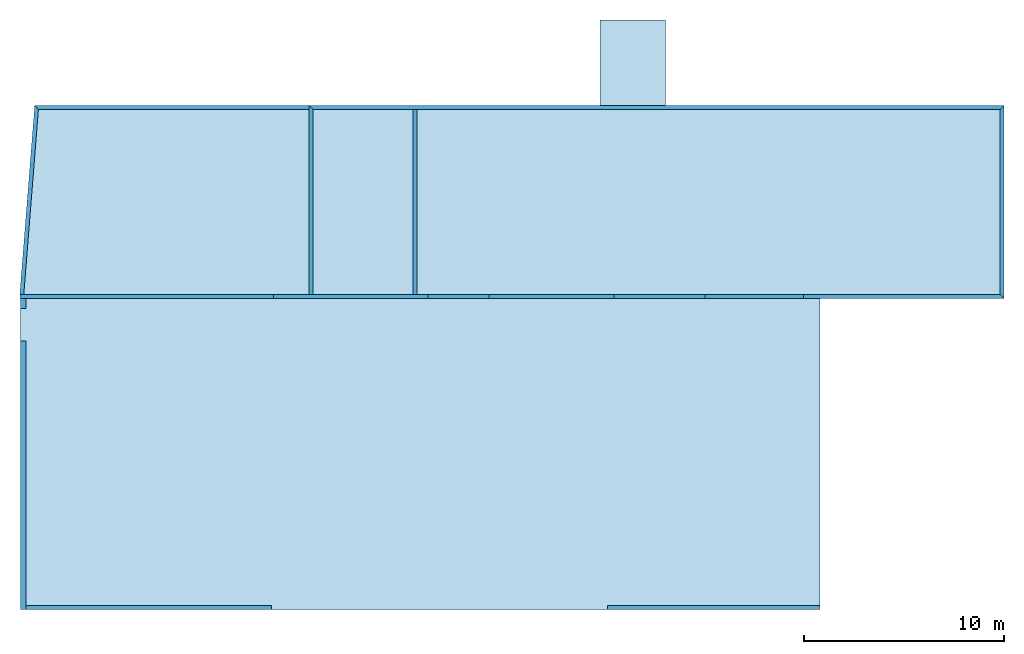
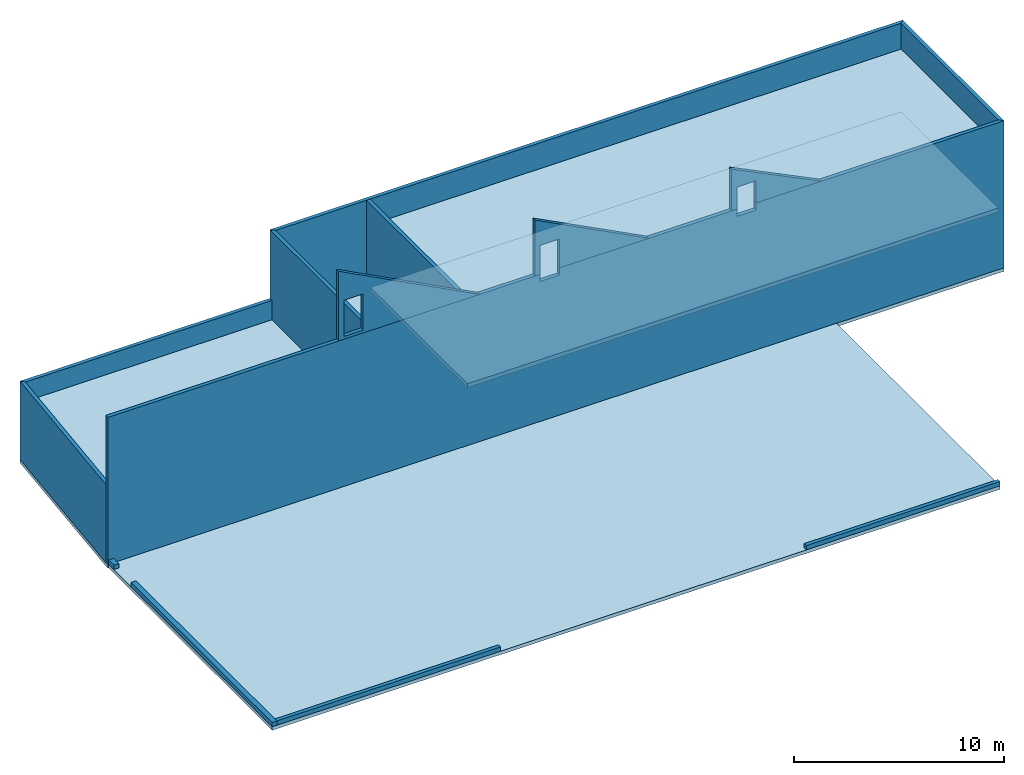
# One storey: 11 beams, 9 slabs, 20 elements without a shape of their own.
"""IFC2X3 building model written with IfcOpenShell, lengths in millimetres."""

from ifc_helpers import new_model, si_unit, frame, origin_with_axes, origin_2d_with_axis, place, context, subcontext, project, spatial, polyline, rectangle, outline, extrude, boolean, clip, halfspace, material, type_object, element, aggregate, save


model = new_model("IFC2X3")

# Units and contexts
model_context = context("Model", 3, precision=1e-05, world=origin_with_axes())
body_context = subcontext(model_context, "Body", "Model", "MODEL_VIEW")
ifc_project = project(units=[si_unit("LENGTHUNIT", "METRE", prefix="MILLI"), si_unit("AREAUNIT", "SQUARE_METRE"), si_unit("VOLUMEUNIT", "CUBIC_METRE"), si_unit("MASSUNIT", "GRAM", prefix="KILO"), si_unit("TIMEUNIT", "SECOND"), si_unit("PLANEANGLEUNIT", "RADIAN"), si_unit("SOLIDANGLEUNIT", "STERADIAN"), si_unit("THERMODYNAMICTEMPERATUREUNIT", "DEGREE_CELSIUS"), si_unit("LUMINOUSINTENSITYUNIT", "LUMEN")], contexts=[model_context])

# Site, building, storey
site_placement = place(None, origin_with_axes())
site = spatial("IfcSite", under=ifc_project, at=site_placement, Name="Undefined", CompositionType="ELEMENT")
building_placement = place(site_placement, origin_with_axes())
building = spatial("IfcBuilding", under=site, at=building_placement, Name="Undefined", CompositionType="ELEMENT")
storey_placement = place(building_placement, origin_with_axes())
storey = spatial("IfcBuildingStorey", under=building, at=storey_placement, Name="Undefined", CompositionType="ELEMENT", Elevation=0.0)

# Assembly, beam
assembly_1_placement = place(storey_placement, origin_with_axes())
assembly_1 = element("IfcElementAssembly", 1, at=assembly_1_placement, inside=storey, Name="POUTRE", AssemblyPlace="NOTDEFINED", PredefinedType="REINFORCEMENT_UNIT")
ifc_material = material(Name="CONCRETE/C25/30")
beam_type_1 = type_object("IfcBeamType", Name="250*270", PredefinedType="NOTDEFINED")
beam_1_placement = place(assembly_1_placement, frame((-44.9999991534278, 13245.0066102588, 125.000000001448), z_axis=(0.0, 0.0, 1.0), x_axis=(0.0, -1.0, 0.0)))
beam_1 = element("IfcBeam", 2, at=beam_1_placement, type_object=beam_type_1, material=ifc_material, Name="POUTRE", ObjectType="250*270", context=body_context, shape_type="SweptSolid", body=[
    extrude(rectangle(XDim=270.0, YDim=250.0, at=origin_2d_with_axis()), frame((13425.0065914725, 0.0, 0.0), z_axis=(-1.0, 0.0, 0.0), x_axis=(0.0, -1.0, 0.0)), (0.0, 0.0, 1.0), 13425.0),
])
aggregate(assembly_1, [beam_1])

assembly_2_placement = place(storey_placement, origin_with_axes())
assembly_2 = element("IfcElementAssembly", 3, at=assembly_2_placement, inside=storey, Name="POUTRE", AssemblyPlace="NOTDEFINED", PredefinedType="REINFORCEMENT_UNIT")
beam_2_placement = place(assembly_2_placement, frame((-44.9999989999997, 15390.0000797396, 124.999999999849), z_axis=(0.0, 0.0, 1.0), x_axis=(0.0, -1.0, 0.0)))
beam_2 = element("IfcBeam", 4, at=beam_2_placement, type_object=beam_type_1, material=ifc_material, Name="POUTRE", ObjectType="250*270", context=body_context, shape_type="SweptSolid", body=[
    extrude(rectangle(XDim=270.0, YDim=250.0, at=origin_2d_with_axis()), frame((500.000077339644, 0.0, 0.0), z_axis=(-1.0, 0.0, 0.0), x_axis=(0.0, -1.0, 0.0)), (0.0, 0.0, 1.0), 500.0),
])
aggregate(assembly_2, [beam_2])

assembly_3_placement = place(storey_placement, origin_with_axes())
assembly_3 = element("IfcElementAssembly", 5, at=assembly_3_placement, inside=storey, Name="POUTRE", AssemblyPlace="NOTDEFINED", PredefinedType="REINFORCEMENT_UNIT")
beam_type_2 = type_object("IfcBeamType", Name="250*200", PredefinedType="NOTDEFINED")
beam_3_placement = place(assembly_3_placement, frame((29179.9971504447, -79.9999948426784, 124.999999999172), z_axis=(0.0, 0.0, 1.0), x_axis=(1.0, 0.0, 0.0)))
beam_3 = element("IfcBeam", 6, at=beam_3_placement, type_object=beam_type_2, material=ifc_material, Name="POUTRE", ObjectType="250*200", context=body_context, shape_type="SweptSolid", body=[
    extrude(rectangle(XDim=200.0, YDim=250.0, at=origin_2d_with_axis()), frame((10645.0, 0.0, 0.0), z_axis=(-1.0, 0.0, 0.0), x_axis=(0.0, -1.0, 0.0)), (0.0, 0.0, 1.0), 10645.0),
])
aggregate(assembly_3, [beam_3])

assembly_4_placement = place(storey_placement, origin_with_axes())
assembly_4 = element("IfcElementAssembly", 7, at=assembly_4_placement, inside=storey, Name="POUTRE", AssemblyPlace="NOTDEFINED", PredefinedType="REINFORCEMENT_UNIT")
beam_4_placement = place(assembly_4_placement, frame((90.0000010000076, -79.9999811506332, 125.000000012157), z_axis=(0.0, 0.0, 1.0), x_axis=(1.0, 0.0, 0.0)))
beam_4 = element("IfcBeam", 8, at=beam_4_placement, type_object=beam_type_2, material=ifc_material, Name="POUTRE", ObjectType="250*200", context=body_context, shape_type="SweptSolid", body=[
    extrude(rectangle(XDim=200.0, YDim=250.0, at=origin_2d_with_axis()), frame((12289.9971494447, 0.0, 0.0), z_axis=(-1.0, 0.0, 0.0), x_axis=(0.0, -1.0, 0.0)), (0.0, 0.0, 1.0), 12290.0),
])
aggregate(assembly_4, [beam_4])

assembly_5_placement = place(storey_placement, origin_with_axes())
assembly_5 = element("IfcElementAssembly", 9, at=assembly_5_placement, inside=storey, Name="POUTRE", AssemblyPlace="NOTDEFINED", PredefinedType="REINFORCEMENT_UNIT")
beam_type_3 = type_object("IfcBeamType", Name="8550*200", PredefinedType="NOTDEFINED")
beam_5_placement = place(assembly_5_placement, frame((19554.9999999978, 15589.9999107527, 4275.0), z_axis=(0.0, 0.0, 1.0), x_axis=(0.0, 1.0, 0.0)))
beam_5 = element("IfcBeam", 10, at=beam_5_placement, type_object=beam_type_3, material=ifc_material, Name="POUTRE", ObjectType="8550*200", context=body_context, shape_type="SweptSolid", body=[
    extrude(rectangle(XDim=200.0, YDim=8550.0, at=origin_2d_with_axis()), frame((9250.00007595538, 0.0, 0.0), z_axis=(-1.0, 0.0, 0.0), x_axis=(0.0, -1.0, 0.0)), (0.0, 0.0, 1.0), 9250.0),
])
aggregate(assembly_5, [beam_5])

assembly_6_placement = place(storey_placement, origin_with_axes())
assembly_6 = element("IfcElementAssembly", 11, at=assembly_6_placement, inside=storey, Name="POUTRE", AssemblyPlace="NOTDEFINED", PredefinedType="REINFORCEMENT_UNIT")
beam_6_placement = place(assembly_6_placement, frame((14354.9999999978, 15589.9999107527, 4275.0), z_axis=(0.0, 0.0, 1.0), x_axis=(0.0, 1.0, 0.0)))
beam_6 = element("IfcBeam", 12, at=beam_6_placement, type_object=beam_type_3, material=ifc_material, Name="POUTRE", ObjectType="8550*200", context=body_context, shape_type="Clipping", body=[
    clip(extrude(rectangle(XDim=200.0, YDim=8550.0, at=origin_2d_with_axis()), frame((9451.00008924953, 0.0, 0.0), z_axis=(-1.0, 0.0, 0.0), x_axis=(0.0, -1.0, 0.0)), (0.0, 0.0, 1.0), 9451.0), halfspace(frame((9450.00008924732, 99.9999999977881, -4275.0), z_axis=(-0.707106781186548, 0.707106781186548, 0.0), x_axis=(0.0, 0.0, 1.0)), True)),
])
aggregate(assembly_6, [beam_6])

assembly_7_placement = place(storey_placement, origin_with_axes())
assembly_7 = element("IfcElementAssembly", 13, at=assembly_7_placement, inside=storey, Name="POUTRE", AssemblyPlace="NOTDEFINED", PredefinedType="REINFORCEMENT_UNIT")
beam_7_placement = place(assembly_7_placement, frame((49032.9999999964, 24939.9999999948, 4275.0), z_axis=(0.0, 0.0, 1.0), x_axis=(-1.0, 0.0, 0.0)))
solid = boolean("DIFFERENCE", boolean("DIFFERENCE", boolean("DIFFERENCE", boolean("DIFFERENCE", boolean("DIFFERENCE", boolean("DIFFERENCE", boolean("DIFFERENCE", boolean("DIFFERENCE", extrude(rectangle(XDim=200.0, YDim=8550.0, at=origin_2d_with_axis()), frame((34879.9999999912, 0.0, 0.0), z_axis=(-1.0, 0.0, 0.0), x_axis=(0.0, -1.0, 0.0)), (0.0, 0.0, 1.0), 34982.0), extrude(outline(polyline([(0.0, 0.0), (1700.0, 0.0), (1700.0, 1000.00000003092), (0.0, 1000.00000003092), (0.0, 0.0)])), frame((24712.9999993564, 103.000023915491, 1935.0), z_axis=(0.0, -1.0, 0.0), x_axis=(0.0, 0.0, -1.0)), (0.0, 0.0, 1.0), 206.0)), extrude(outline(polyline([(0.0, 0.0), (1700.0, 0.0), (1700.0, 1450.00000003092), (0.0, 1450.00000003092), (0.0, 0.0)])), frame((20657.9999993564, 103.000010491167, 1935.0), z_axis=(0.0, -1.0, 0.0), x_axis=(0.0, 0.0, -1.0)), (0.0, 0.0, 1.0), 206.0)), extrude(outline(polyline([(0.0, 0.0), (1700.0, 0.0), (1700.0, 5000.00000003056), (0.0, 5000.00000003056), (0.0, 0.0)])), frame((14593.9999993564, 102.999990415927, 1935.0), z_axis=(0.0, -1.0, 0.0), x_axis=(0.0, 0.0, -1.0)), (0.0, 0.0, 1.0), 206.0)), extrude(outline(polyline([(0.0, 0.0), (1700.0, 0.0), (1700.0, 5000.00000003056), (0.0, 5000.00000003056), (0.0, 0.0)])), frame((13029.9999999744, -103.00001476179, 1935.0), z_axis=(0.0, 1.0, 0.0), x_axis=(0.0, 0.0, -1.0)), (0.0, 0.0, 1.0), 206.0)), extrude(outline(polyline([(0.0, 0.0), (1600.00000003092, 0.0), (1600.00000003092, 2815.0), (3.09228198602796e-08, 2815.0), (0.0, 0.0)])), frame((24007.9999999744, -102.999978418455, -1460.0), z_axis=(0.0, 1.0, 0.0), x_axis=(1.0, 0.0, 0.0)), (0.0, 0.0, 1.0), 206.0)), extrude(outline(polyline([(0.0, 0.0), (1170.00000003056, 0.0), (1170.00000003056, 2815.0), (3.09228198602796e-08, 2815.0), (0.0, 0.0)])), frame((11859.9999999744, -103.000018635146, -1460.0), z_axis=(0.0, 1.0, 0.0), x_axis=(1.0, 0.0, 0.0)), (0.0, 0.0, 1.0), 206.0)), extrude(outline(polyline([(0.0, 0.0), (1990.0, 0.0), (1990.0, 2800.0), (0.0, 2800.0), (0.0, 0.0)])), frame((14330.0000000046, -103.000113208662, -1475.0), z_axis=(0.0, 1.0, 0.0), x_axis=(1.0, 0.0, 0.0)), (0.0, 0.0, 1.0), 206.0)), extrude(outline(polyline([(0.0, 0.0), (1150.00000003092, 0.0), (1150.00000003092, 2180.0), (3.09228198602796e-08, 2180.0), (0.0, 0.0)])), frame((22622.9999999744, -102.999983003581, -2095.0), z_axis=(0.0, 1.0, 0.0), x_axis=(1.0, 0.0, 0.0)), (0.0, 0.0, 1.0), 206.0))
beam_7 = element("IfcBeam", 14, at=beam_7_placement, type_object=beam_type_3, material=ifc_material, Name="POUTRE", ObjectType="8550*200", context=body_context, shape_type="CSG", body=[
    boolean("DIFFERENCE", boolean("DIFFERENCE", solid, halfspace(frame((34777.9999999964, -100.00000000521, -4275.0), z_axis=(0.707106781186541, 0.707106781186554, 0.0), x_axis=(0.0, 0.0, 1.0)), False)), halfspace(frame((0.000287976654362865, -100.00000000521, -4275.0), z_axis=(0.707106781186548, -0.707106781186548, 0.0), x_axis=(0.0, 0.0, 1.0)), True)),
])
aggregate(assembly_7, [beam_7])

assembly_8_placement = place(storey_placement, origin_with_axes())
assembly_8 = element("IfcElementAssembly", 15, at=assembly_8_placement, inside=storey, Name="POUTRE", AssemblyPlace="NOTDEFINED", PredefinedType="REINFORCEMENT_UNIT")
beam_8_placement = place(assembly_8_placement, frame((48932.9999999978, 15389.9999999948, 4275.0), z_axis=(0.0, 0.0, 1.0), x_axis=(0.0, 1.0, 0.0)))
beam_8 = element("IfcBeam", 16, at=beam_8_placement, type_object=beam_type_3, material=ifc_material, Name="POUTRE", ObjectType="8550*200", context=body_context, shape_type="Clipping", body=[
    clip(clip(extrude(rectangle(XDim=200.0, YDim=8550.0, at=origin_2d_with_axis()), frame((9752.0002879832, 0.0, 0.0), z_axis=(-1.0, 0.0, 0.0), x_axis=(0.0, -1.0, 0.0)), (0.0, 0.0, 1.0), 9854.0), halfspace(frame((9650.0001439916, -99.9998560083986, -4275.0), z_axis=(0.707106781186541, 0.707106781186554, 0.0), x_axis=(0.0, 0.0, 1.0)), False)), halfspace(frame((200.000153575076, 100.000729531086, -4275.0), z_axis=(-0.707106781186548, 0.707106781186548, 0.0), x_axis=(0.0, 0.0, 1.0)), False)),
])
aggregate(assembly_8, [beam_8])

assembly_9_placement = place(storey_placement, origin_with_axes())
assembly_9 = element("IfcElementAssembly", 17, at=assembly_9_placement, inside=storey, Name="POUTRE", AssemblyPlace="NOTDEFINED", PredefinedType="REINFORCEMENT_UNIT")
beam_9_placement = place(assembly_9_placement, frame((49033.0, 15490.0, 4275.0), z_axis=(0.0, 0.0, 1.0), x_axis=(-1.0, 0.0, 0.0)))
beam_9 = element("IfcBeam", 18, at=beam_9_placement, type_object=beam_type_3, material=ifc_material, Name="POUTRE", ObjectType="8550*200", context=body_context, shape_type="CSG", body=[
    boolean("DIFFERENCE", boolean("DIFFERENCE", boolean("DIFFERENCE", extrude(rectangle(XDim=200.0, YDim=8550.0, at=origin_2d_with_axis()), frame((49248.0, 0.0, 0.0), z_axis=(-1.0, 0.0, 0.0), x_axis=(0.0, -1.0, 0.0)), (0.0, 0.0, 1.0), 49249.0), extrude(outline(polyline([(0.0, 0.0), (420.000061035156, 0.0), (420.000061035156, 1065.0), (0.0, 1065.0), (0.0, 0.0)])), frame((25496.5000000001, -102.5, 4275.00006282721), z_axis=(0.0, 1.0, 0.0), x_axis=(0.0, 0.0, -1.0)), (0.0, 0.0, 1.0), 205.0)), extrude(outline(polyline([(0.0, 0.0), (419.999969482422, 0.0), (419.999969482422, 1065.0), (0.0, 1065.0), (0.0, 0.0)])), frame((14686.5, -102.5, 4274.99997731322), z_axis=(0.0, 1.0, 0.0), x_axis=(0.0, 0.0, -1.0)), (0.0, 0.0, 1.0), 205.0)), halfspace(frame((200.000729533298, -100.000153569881, -4275.0), z_axis=(0.707106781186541, 0.707106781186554, 0.0), x_axis=(0.0, 0.0, 1.0)), True)),
])
aggregate(assembly_9, [beam_9])

assembly_10_placement = place(storey_placement, origin_with_axes())
assembly_10 = element("IfcElementAssembly", 19, at=assembly_10_placement, inside=storey, Name="POUTRE", AssemblyPlace="NOTDEFINED", PredefinedType="REINFORCEMENT_UNIT")
beam_type_4 = type_object("IfcBeamType", Name="4550*200", PredefinedType="NOTDEFINED")
beam_10_placement = place(assembly_10_placement, frame((14255.0, 24939.9999999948, 2275.0), z_axis=(0.0, 0.0, 1.0), x_axis=(-1.0, 0.0, 0.0)))
beam_10 = element("IfcBeam", 20, at=beam_10_placement, type_object=beam_type_4, material=ifc_material, Name="POUTRE", ObjectType="4550*200", context=body_context, shape_type="Clipping", body=[
    clip(extrude(rectangle(XDim=200.0, YDim=4550.0, at=origin_2d_with_axis()), frame((13734.3312485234, 0.0, 0.0), z_axis=(-1.0, 0.0, 0.0), x_axis=(0.0, -1.0, 0.0)), (0.0, 0.0, 1.0), 13734.3), halfspace(frame((13548.592821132, 100.000000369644, -2275.0), z_axis=(-0.734439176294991, -0.67867451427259, 0.0), x_axis=(0.0, 0.0, 1.0)), True)),
])
aggregate(assembly_10, [beam_10])

assembly_11_placement = place(storey_placement, origin_with_axes())
assembly_11 = element("IfcElementAssembly", 21, at=assembly_11_placement, inside=storey, Name="POUTRE", AssemblyPlace="NOTDEFINED", PredefinedType="REINFORCEMENT_UNIT")
beam_11_placement = place(assembly_11_placement, frame((621.281853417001, 25032.1198194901, 2274.99999999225), z_axis=(0.0, 0.0, 1.0), x_axis=(-0.0788018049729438, -0.996890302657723, 0.0)))
beam_11 = element("IfcBeam", 22, at=beam_11_placement, type_object=beam_type_4, material=ifc_material, Name="POUTRE", ObjectType="4550*200", context=body_context, shape_type="Clipping", body=[
    clip(clip(clip(extrude(rectangle(XDim=200.0, YDim=4550.0, at=origin_2d_with_axis()), frame((9586.76964239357, 1.33043154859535e-13, 4.54747350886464e-13), z_axis=(-1.0, 0.0, 0.0), x_axis=(0.0, -1.0, 0.0)), (0.0, 0.0, 1.0), 9609.6), halfspace(frame((100.311939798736, -830.961129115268, -2275.0), z_axis=(0.0788018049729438, -0.996890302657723, 0.0), x_axis=(0.0, 0.0, 1.0)), False)), halfspace(frame((9478.06434405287, -82.1124981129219, -2274.99999999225), z_axis=(0.996890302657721, 0.0788018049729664, 0.0), x_axis=(0.0, 0.0, 1.0)), False)), halfspace(frame((184.814356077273, 100.000000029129, -2274.99999999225), z_axis=(-0.734439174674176, 0.678674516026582, 0.0), x_axis=(0.0, 0.0, 1.0)), False)),
])
aggregate(assembly_11, [beam_11])

# Assembly, slab
assembly_12_placement = place(storey_placement, origin_with_axes())
assembly_12 = element("IfcElementAssembly", 23, at=assembly_12_placement, inside=storey, Name="DALLE", AssemblyPlace="NOTDEFINED", PredefinedType="REINFORCEMENT_UNIT")
slab_type_1 = type_object("IfcSlabType", Name="200*5000", PredefinedType="NOTDEFINED")
slab_1_placement = place(assembly_12_placement, frame((14455.0, 24839.9999999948, 3325.0), z_axis=(0.0, 0.0, 1.0), x_axis=(0.0, -1.0, 0.0)))
slab_1 = element("IfcSlab", 24, at=slab_1_placement, type_object=slab_type_1, material=ifc_material, Name="DALLE", ObjectType="200*5000", PredefinedType="FLOOR", context=body_context, shape_type="SweptSolid", body=[
    extrude(outline(polyline([(0.0, 0.0), (9250.0, 3.63797880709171e-12), (9250.0009765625, 4999.998046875), (0.000105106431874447, 5000.0), (0.0, 0.0)])), frame((0.0, 0.0, -100.0), z_axis=(0.0, 0.0, 1.0), x_axis=(1.0, 0.0, 0.0)), (0.0, 0.0, 1.0), 200.0),
])
aggregate(assembly_12, [slab_1])

assembly_13_placement = place(storey_placement, origin_with_axes())
assembly_13 = element("IfcElementAssembly", 25, at=assembly_13_placement, inside=storey, Name="DALLE", AssemblyPlace="NOTDEFINED", PredefinedType="REINFORCEMENT_UNIT")
slab_type_2 = type_object("IfcSlabType", Name="200*15570", PredefinedType="NOTDEFINED")
slab_2_placement = place(assembly_13_placement, frame((39824.9971504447, -180.0, -100.0), z_axis=(0.0, 0.0, 1.0), x_axis=(0.0, 1.0, 0.0)))
slab_2 = element("IfcSlab", 26, at=slab_2_placement, type_object=slab_type_2, material=ifc_material, Name="DALLE", ObjectType="200*15570", PredefinedType="FLOOR", context=body_context, shape_type="SweptSolid", body=[
    extrude(outline(polyline([(0.0, 0.0), (15570.0, -2.73066689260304e-08), (15569.9999999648, 40004.9960937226), (-6.12302781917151e-05, 40004.99609375), (0.0, 0.0)])), frame((0.0, 0.0, -100.0), z_axis=(0.0, 0.0, 1.0), x_axis=(1.0, 0.0, 0.0)), (0.0, 0.0, 1.0), 200.0),
])
aggregate(assembly_13, [slab_2])

assembly_14_placement = place(storey_placement, origin_with_axes())
assembly_14 = element("IfcElementAssembly", 27, at=assembly_14_placement, inside=storey, Name="DALLE", AssemblyPlace="NOTDEFINED", PredefinedType="REINFORCEMENT_UNIT")
slab_type_3 = type_object("IfcSlabType", Name="200*2425", PredefinedType="NOTDEFINED")
slab_3_placement = place(assembly_14_placement, frame((34063.5, 15489.999472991, 10975.4455339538), z_axis=(0.0, -1.0, 0.0), x_axis=(0.0, 0.0, -1.0)))
slab_3 = element("IfcSlab", 28, at=slab_3_placement, type_object=slab_type_3, material=ifc_material, Name="DALLE", ObjectType="200*2425", PredefinedType="FLOOR", context=body_context, shape_type="CSG", body=[
    boolean("DIFFERENCE", extrude(outline(polyline([(0.0, 0.0), (2425.44555664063, 0.0), (2425.44555664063, 4933.109375), (0.0, 0.0)])), frame((0.0, 0.0, -100.0), z_axis=(0.0, 0.0, 1.0), x_axis=(1.0, 0.0, 0.0)), (0.0, 0.0, 1.0), 200.0), extrude(outline(polyline([(0.0, 0.0), (1700.0, 0.0), (1700.0, 1065.0), (0.0, 1065.0), (0.0, 0.0)])), frame((1145.44553395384, 1348.0, 102.5), z_axis=(0.0, 0.0, -1.0), x_axis=(1.0, 0.0, 0.0)), (0.0, 0.0, 1.0), 205.0)),
])
aggregate(assembly_14, [slab_3])

assembly_15_placement = place(storey_placement, origin_with_axes())
assembly_15 = element("IfcElementAssembly", 29, at=assembly_15_placement, inside=storey, Name="DALLE", AssemblyPlace="NOTDEFINED", PredefinedType="REINFORCEMENT_UNIT")
slab_type_4 = type_object("IfcSlabType", Name="200*3249", PredefinedType="NOTDEFINED")
slab_4_placement = place(assembly_15_placement, frame((23253.5000017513, 15489.9996870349, 11799.0364397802), z_axis=(0.0, -1.0, 0.0), x_axis=(0.0, 0.0, -1.0)))
slab_4 = element("IfcSlab", 30, at=slab_4_placement, type_object=slab_type_4, material=ifc_material, Name="DALLE", ObjectType="200*3249", PredefinedType="FLOOR", context=body_context, shape_type="CSG", body=[
    boolean("DIFFERENCE", extrude(outline(polyline([(0.0, 0.0), (3249.03637695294, 4.86907083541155e-08), (3249.03637695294, 6269.86816411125), (0.0, 0.0)])), frame((0.0, 0.0, -100.0), z_axis=(0.0, 0.0, 1.0), x_axis=(1.0, 0.0, 0.0)), (0.0, 0.0, 1.0), 200.0), extrude(outline(polyline([(0.0, 0.0), (2100.0, 0.0), (2100.0, 1065.0), (0.0, 1065.0), (0.0, 0.0)])), frame((1569.03643978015, 282.999996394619, -102.999948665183), z_axis=(0.0, 0.0, 1.0), x_axis=(1.0, 0.0, 0.0)), (0.0, 0.0, 1.0), 206.0)),
])
aggregate(assembly_15, [slab_4])

assembly_16_placement = place(storey_placement, origin_with_axes())
assembly_16 = element("IfcElementAssembly", 31, at=assembly_16_placement, inside=storey, Name="DALLE", AssemblyPlace="NOTDEFINED", PredefinedType="REINFORCEMENT_UNIT")
slab_type_5 = type_object("IfcSlabType", Name="200*4052", PredefinedType="NOTDEFINED")
slab_5_placement = place(assembly_16_placement, frame((12463.5000011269, 15489.9997800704, 12602.0151979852), z_axis=(0.0, -1.0, 0.0), x_axis=(0.0, 0.0, -1.0)))
slab_5 = element("IfcSlab", 32, at=slab_5_placement, type_object=slab_type_5, material=ifc_material, Name="DALLE", ObjectType="200*4052", PredefinedType="FLOOR", context=body_context, shape_type="CSG", body=[
    boolean("DIFFERENCE", extrude(outline(polyline([(0.0, 0.0), (4052.01513671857, -2.6855559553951e-08), (4052.01489257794, 7745.84130856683), (0.0, 0.0)])), frame((0.0, 0.0, -100.0), z_axis=(0.0, 0.0, 1.0), x_axis=(1.0, 0.0, 0.0)), (0.0, 0.0, 1.0), 200.0), extrude(outline(polyline([(0.0, 0.0), (2100.0, 0.0), (2100.0, 1065.0), (6.12666408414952e-05, 1065.0), (0.0, 0.0)])), frame((1782.01513671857, 283.009997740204, -102.999960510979), z_axis=(0.0, 0.0, 1.0), x_axis=(1.0, 0.0, 0.0)), (0.0, 0.0, 1.0), 206.0)),
])
aggregate(assembly_16, [slab_5])

assembly_17_placement = place(storey_placement, origin_with_axes())
assembly_17 = element("IfcElementAssembly", 33, at=assembly_17_placement, inside=storey, Name="DALLE", AssemblyPlace="NOTDEFINED", PredefinedType="REINFORCEMENT_UNIT")
slab_type_6 = type_object("IfcSlabType", Name="200*13930", PredefinedType="NOTDEFINED")
slab_6_placement = place(assembly_17_placement, frame((521.592823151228, 25040.0000000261, -100.0), z_axis=(0.0, 0.0, 1.0), x_axis=(-0.0788018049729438, -0.996890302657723, 0.0)))
slab_6 = element("IfcSlab", 34, at=slab_6_placement, type_object=slab_type_6, material=ifc_material, Name="DALLE", ObjectType="200*13930", PredefinedType="FLOOR", context=body_context, shape_type="SweptSolid", body=[
    extrude(outline(polyline([(0.0, 0.0), (9347.4101561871, -3.21924744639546e-08), (9678.03613274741, 26.1351794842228), (5797.20556643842, 49120.988281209), (-3822.78637685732, 48360.5507812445), (-2487.88403314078, 31473.2304687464), (-6754.57421865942, 31135.9570312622), (-6496.1044921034, 27866.1582031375), (-2229.41406244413, 28203.4296874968), (0.0, 0.0)])), frame((0.0, 0.0, -100.0), z_axis=(0.0, 0.0, 1.0), x_axis=(1.0, 0.0, 0.0)), (0.0, 0.0, 1.0), 200.0),
])
aggregate(assembly_17, [slab_6])

assembly_18_placement = place(storey_placement, origin_with_axes())
assembly_18 = element("IfcElementAssembly", 35, at=assembly_18_placement, inside=storey, Name="DALLE", AssemblyPlace="NOTDEFINED", PredefinedType="REINFORCEMENT_UNIT")
slab_type_7 = type_object("IfcSlabType", Name="230*9250", PredefinedType="NOTDEFINED")
slab_7_placement = place(assembly_18_placement, frame((19655.0, 24839.9999999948, 3310.0), z_axis=(0.0, 0.0, 1.0), x_axis=(0.0, -1.0, 0.0)))
slab_7 = element("IfcSlab", 36, at=slab_7_placement, type_object=slab_type_7, material=ifc_material, Name="DALLE", ObjectType="230*9250", PredefinedType="FLOOR", context=body_context, shape_type="SweptSolid", body=[
    extrude(outline(polyline([(0.0, 0.0), (9250.0, 3.63797880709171e-12), (9250.0009765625, 29177.998046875), (0.000105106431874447, 29178.0), (0.0, 0.0)])), frame((0.0, 0.0, -115.0), z_axis=(0.0, 0.0, 1.0), x_axis=(1.0, 0.0, 0.0)), (0.0, 0.0, 1.0), 230.0),
])
aggregate(assembly_18, [slab_7])

assembly_19_placement = place(storey_placement, origin_with_axes())
assembly_19 = element("IfcElementAssembly", 37, at=assembly_19_placement, inside=storey, Name="DALLE", AssemblyPlace="NOTDEFINED", PredefinedType="REINFORCEMENT_UNIT")
slab_8_placement = place(assembly_19_placement, frame((706.407178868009, 24839.9999996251, 3310.0), z_axis=(0.0, 0.0, 1.0), x_axis=(-0.0788018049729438, -0.996890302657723, 0.0)))
slab_8 = element("IfcSlab", 38, at=slab_8_placement, type_object=slab_type_7, material=ifc_material, Name="DALLE", ObjectType="230*9250", PredefinedType="FLOOR", context=body_context, shape_type="SweptSolid", body=[
    extrude(outline(polyline([(0.0, 0.0), (9278.85351568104, 3.96833002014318e-08), (8153.59130869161, 14235.3720703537), (-1067.64440914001, 13506.4628906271), (0.0, 0.0)])), frame((0.0, 0.0, -115.0), z_axis=(0.0, 0.0, 1.0), x_axis=(1.0, 0.0, 0.0)), (0.0, 0.0, 1.0), 230.0),
])
aggregate(assembly_19, [slab_8])

assembly_20_placement = place(storey_placement, origin_with_axes())
assembly_20 = element("IfcElementAssembly", 39, at=assembly_20_placement, inside=storey, Name="DALLE", AssemblyPlace="NOTDEFINED", PredefinedType="REINFORCEMENT_UNIT")
slab_type_8 = type_object("IfcSlabType", Name="220*9250", PredefinedType="NOTDEFINED")
slab_9_placement = place(assembly_20_placement, frame((19655.0, 24839.9999999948, 6940.0), z_axis=(0.0, 0.0, 1.0), x_axis=(0.0, -1.0, 0.0)))
slab_9 = element("IfcSlab", 40, at=slab_9_placement, type_object=slab_type_8, material=ifc_material, Name="DALLE", ObjectType="220*9250", PredefinedType="FLOOR", context=body_context, shape_type="SweptSolid", body=[
    extrude(outline(polyline([(0.0, 0.0), (9250.0, 3.63797880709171e-12), (9250.0009765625, 29177.998046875), (0.000105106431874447, 29178.0), (0.0, 0.0)])), frame((0.0, 0.0, -110.0), z_axis=(0.0, 0.0, 1.0), x_axis=(1.0, 0.0, 0.0)), (0.0, 0.0, 1.0), 220.0),
])
aggregate(assembly_20, [slab_9])

save(model, "model.ifc")
